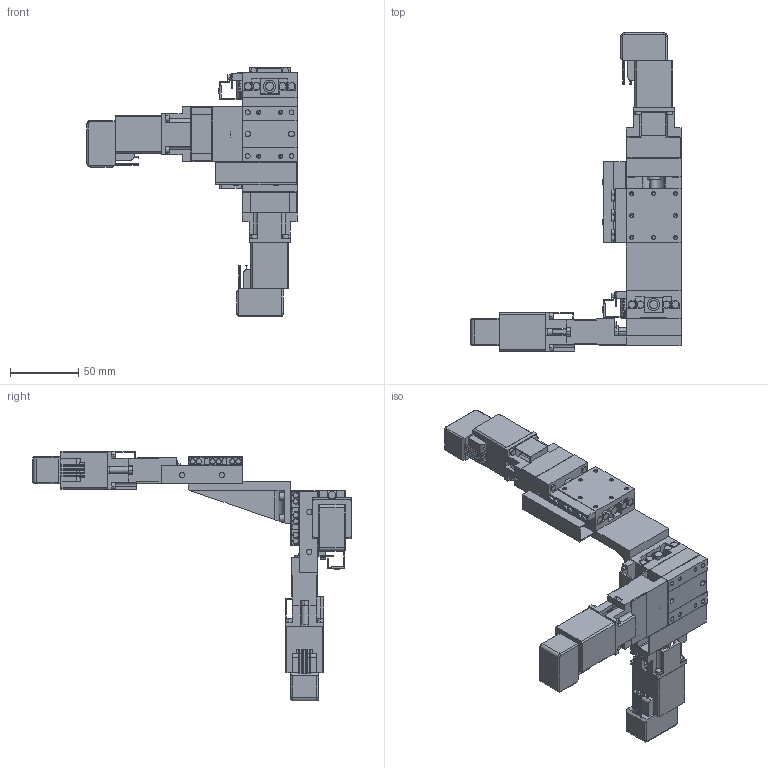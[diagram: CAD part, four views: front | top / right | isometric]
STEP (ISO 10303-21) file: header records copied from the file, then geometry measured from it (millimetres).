
FILE_DESCRIPTION(('STEP AP203'),'1');
FILE_NAME('C:/3D-Trans/3D_PMZG413T-L□-ZA+240129.step','2024-03-14T08:45:03',(' '),(' '),'Spatial InterOp 3D',' ',' ');
FILE_SCHEMA(('CONFIG_CONTROL_DESIGN'));
Length unit declared in the file: millimetre
Products named in the file (19): 1; 2; 3; 4; 5; 6; 7; 8; 9; 10; 11; 12; 13; 14; 15; 16; 17; 18; 19
Bounding box: 153.5 x 232.5 x 182.5 mm (x, y, z)
Volume: 317889.8 mm3; surface area: 137117.4 mm2
Topology: 19 solids, 19 shells, 1789 faces, 4516 edges, 2812 vertices
Faces by surface type: plane 950, cylinder 627, cone 200, torus 12
Entity records: 54609 total; most frequent: CARTESIAN_POINT 10027, DIRECTION 9466, ORIENTED_EDGE 8864, EDGE_CURVE 4432, AXIS2_PLACEMENT_3D 3307, LINE 2852, VECTOR 2852, VERTEX_POINT 2812
